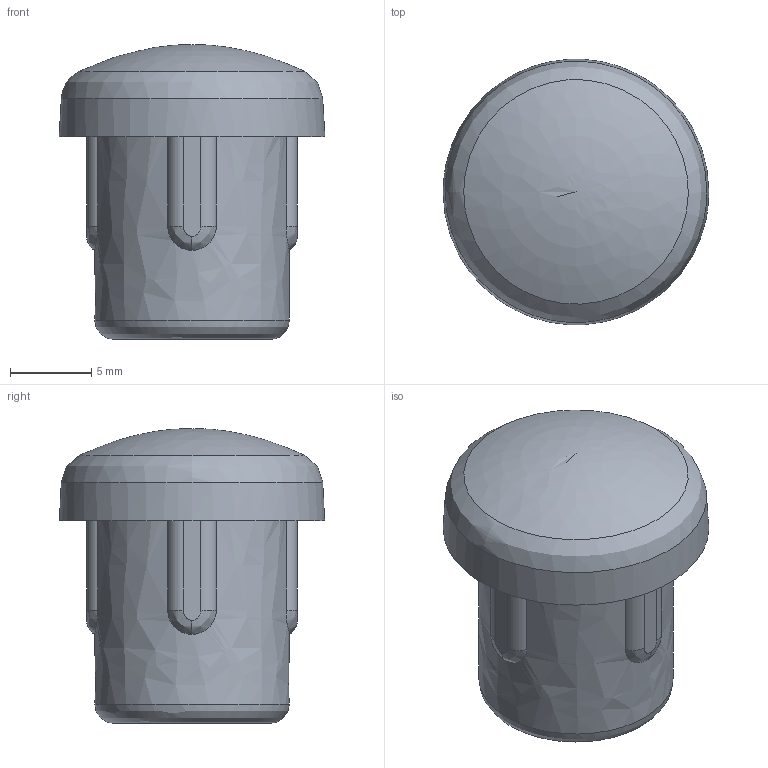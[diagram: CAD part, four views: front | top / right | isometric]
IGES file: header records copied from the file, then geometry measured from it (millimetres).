
Global section: file name: DR_PR5-16; native system: Autodesk Inventor 2015; preprocessor: unknown; author: Administrator; date: 20170925.131048; units: millimetre
Bounding box: 16.4 x 16.37 x 18.2 mm (x, y, z)
Volume: 1484.2 mm3; surface area: 1430.9 mm2
Topology: 1 solids, 1 shells, 29 faces, 76 edges, 50 vertices
Faces by surface type: bspline 29
